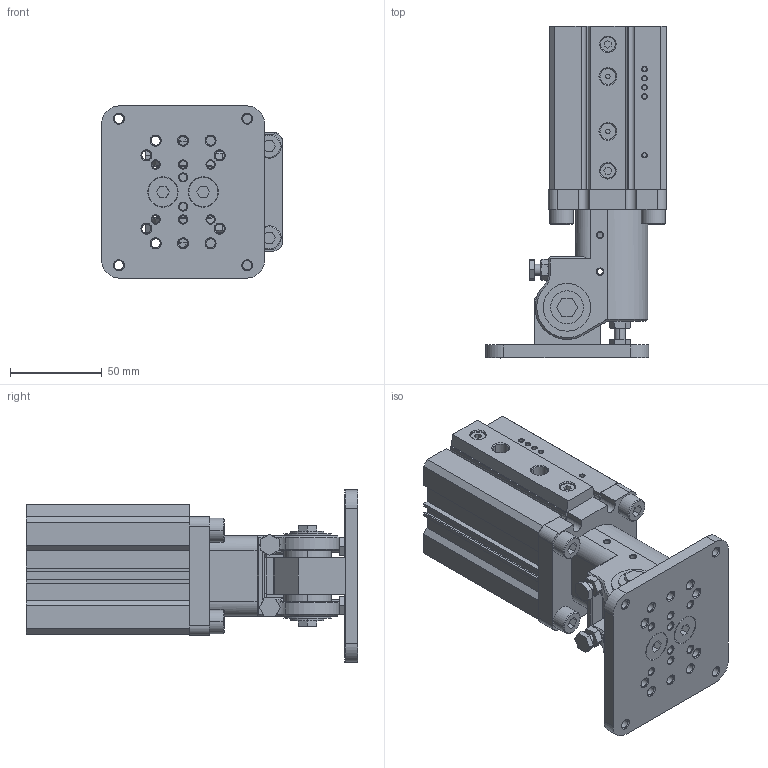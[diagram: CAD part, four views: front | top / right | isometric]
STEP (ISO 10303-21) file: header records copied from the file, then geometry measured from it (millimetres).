
FILE_DESCRIPTION(/* description */ (''),/* implementation_level */ '2;1');
FILE_NAME(/* name */ 'DHR2C-50M35PPV-ZG-ZB.stp',/* time_stamp */ '2025-04-09T11:18:26+08:00',/* author */ (''),/* organization */ (''),/* preprocessor_version */ 'ST-DEVELOPER v15',/* originating_system */ 'SIEMENS PLM Software NX 10.0',/* authorisation */ '');
FILE_SCHEMA (('AP203_CONFIGURATION_CONTROLLED_3D_DESIGN_OF_MECHANICAL_PARTS_AND_ASSEMBLIES_MIM_LF { 1 0 10303 403 2 1 2}'));
Length unit declared in the file: millimetre
Products named in the file (1): Admi00C8E5C0fdx2
Bounding box: 98.74 x 181.02 x 94 mm (x, y, z)
Volume: 575306.1 mm3; surface area: 141658 mm2
Topology: 34 solids, 34 shells, 917 faces, 2138 edges, 1342 vertices
Faces by surface type: plane 380, cylinder 295, cone 228, bspline 10, torus 4
Full cylindrical faces by diameter (mm): 8 x2
Entity records: 27450 total; most frequent: CARTESIAN_POINT 5984, DIRECTION 4571, ORIENTED_EDGE 4260, EDGE_CURVE 2130, AXIS2_PLACEMENT_3D 1706, VERTEX_POINT 1338, LINE 1159, VECTOR 1159
